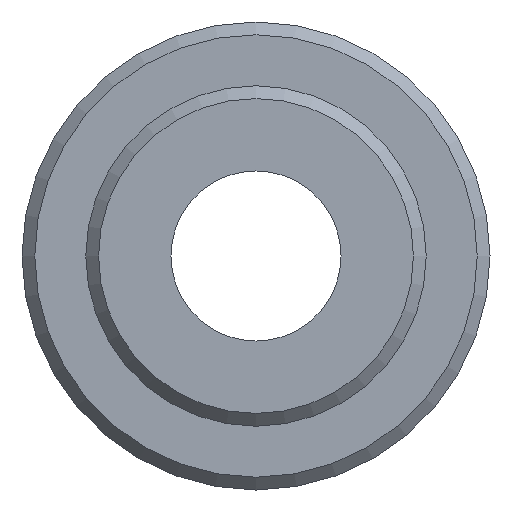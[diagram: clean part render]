
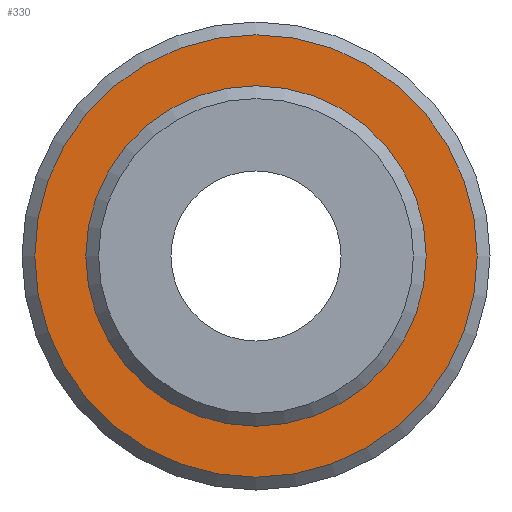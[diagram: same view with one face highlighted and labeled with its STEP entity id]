
A CAD part, front view. The second image highlights one B-rep face of the part: STEP entity #330.
In plain terms, the highlighted planar face has unit normal (0, -1, 0).
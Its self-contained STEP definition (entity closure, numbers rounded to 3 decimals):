
#21=FACE_BOUND('',#104,.T.);
#28=PLANE('',#402);
#78=FACE_OUTER_BOUND('',#103,.T.);
#103=EDGE_LOOP('',(#281));
#104=EDGE_LOOP('',(#282));
#142=CIRCLE('',#401,5.2);
#143=CIRCLE('',#403,4.);
#172=VERTEX_POINT('',#610);
#173=VERTEX_POINT('',#614);
#212=EDGE_CURVE('',#172,#172,#142,.T.);
#213=EDGE_CURVE('',#173,#173,#143,.T.);
#281=ORIENTED_EDGE('',*,*,#212,.F.);
#282=ORIENTED_EDGE('',*,*,#213,.T.);
#330=ADVANCED_FACE('',(#78,#21),#28,.T.);
#401=AXIS2_PLACEMENT_3D('',#612,#504,#505);
#402=AXIS2_PLACEMENT_3D('',#613,#506,#507);
#403=AXIS2_PLACEMENT_3D('',#615,#508,#509);
#504=DIRECTION('center_axis',(0.,1.,0.));
#505=DIRECTION('ref_axis',(-1.,0.,0.));
#506=DIRECTION('center_axis',(0.,-1.,0.));
#507=DIRECTION('ref_axis',(0.,0.,-1.));
#508=DIRECTION('center_axis',(0.,1.,0.));
#509=DIRECTION('ref_axis',(1.,0.,0.));
#610=CARTESIAN_POINT('',(5.2,20.4,0.));
#612=CARTESIAN_POINT('Origin',(0.,20.4,0.));
#613=CARTESIAN_POINT('Origin',(5.5,20.4,0.));
#614=CARTESIAN_POINT('',(-4.,20.4,0.));
#615=CARTESIAN_POINT('Origin',(0.,20.4,0.));
